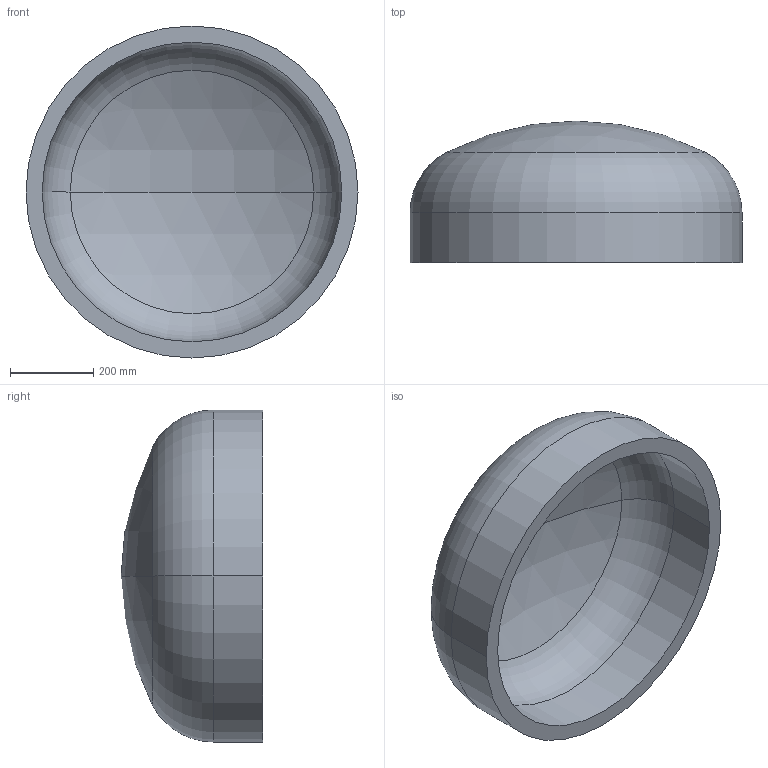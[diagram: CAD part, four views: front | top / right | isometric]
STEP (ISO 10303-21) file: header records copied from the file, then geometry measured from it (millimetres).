
FILE_DESCRIPTION (( 'STEP AP203' ), '1' );
FILE_NAME ('DIN 28013 Korbbogenform_-_Boden DIN 28013 - 800 x 120 - I - s=39.step', '2016-07-01T08:16:34', ( '' ), ( '' ), 'SwSTEP 2.0', 'SolidWorks 2013', '' );
FILE_SCHEMA (( 'CONFIG_CONTROL_DESIGN' ));
Length unit declared in the file: millimetre
Products named in the file (1): DIN 28013 Korbbogenform_-_Boden DIN 28013 - 800 x 120 - I - s=39
Bounding box: 800 x 341.26 x 800 mm (x, y, z)
Volume: 36765228.6 mm3; surface area: 1981820.9 mm2
Topology: 1 solids, 1 shells, 13 faces, 24 edges, 14 vertices
Faces by surface type: torus 4, cylinder 4, sphere 4, plane 1
Entity records: 407 total; most frequent: DIRECTION 72, CARTESIAN_POINT 52, ORIENTED_EDGE 48, AXIS2_PLACEMENT_3D 34, EDGE_CURVE 24, CIRCLE 20, VERTEX_POINT 14, EDGE_LOOP 14
